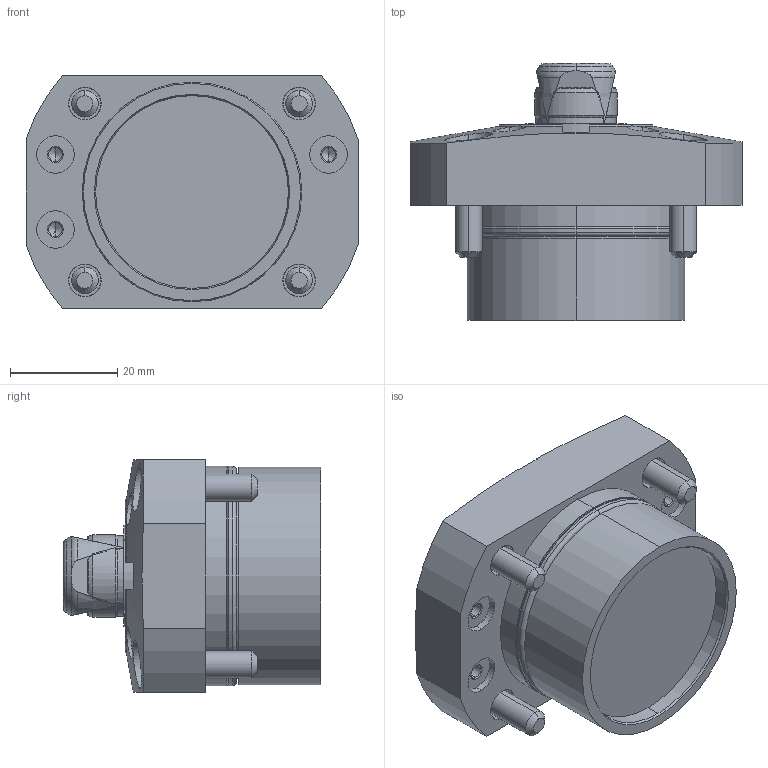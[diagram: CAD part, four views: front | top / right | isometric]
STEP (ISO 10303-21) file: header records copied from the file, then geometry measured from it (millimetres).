
FILE_DESCRIPTION (( 'STEP AP203' ), '1' );
FILE_NAME ('SFH2160.STEP', '2010-11-03T23:19:56', ( ' ' ), ( ' ' ), 'SwSTEP 2.0', 'SolidWorks 2010', '' );
FILE_SCHEMA (( 'CONFIG_CONTROL_DESIGN' ));
Length unit declared in the file: millimetre
Products named in the file (7): SFH2160; 6妏寠晅无倌_M3_10; 6妏寠晅无倌_M5_16; SFH2160_套菁轤礁诎蔬晅; SFH2_钾堇轤O剌皋晅; φ16_ｽﾘｰﾌﾞ; 冇16_郫霓
Assembly tree (12 placements, depth 2):
  SFH2160
    SFH2160_套菁轤礁诎蔬晅
    6妏寠晅无倌_M5_16  x4
    6妏寠晅无倌_M3_10  x4
    φ16_ｽﾘｰﾌﾞ
    SFH2_钾堇轤O剌皋晅
    冇16_郫霓
Bounding box: 62 x 48 x 43.5 mm (x, y, z)
Volume: 60438.4 mm3; surface area: 22329.7 mm2
Topology: 16 solids, 16 shells, 486 faces, 1011 edges, 564 vertices
Faces by surface type: plane 191, cone 156, cylinder 120, torus 19
Entity records: 10069 total; most frequent: CARTESIAN_POINT 2468, DIRECTION 1472, ORIENTED_EDGE 1350, EDGE_CURVE 675, AXIS2_PLACEMENT_3D 612, VERTEX_POINT 414, EDGE_LOOP 337, ADVANCED_FACE 300
